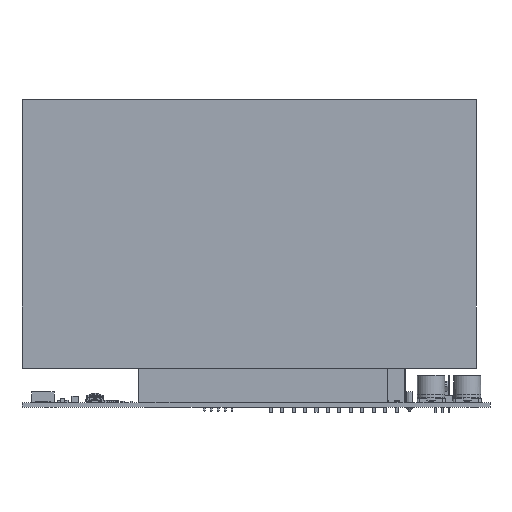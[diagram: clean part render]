
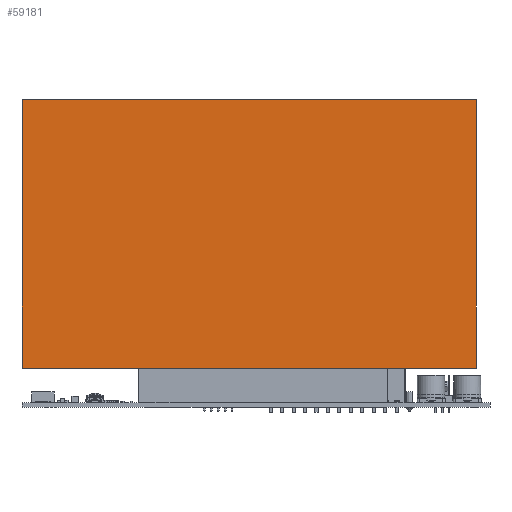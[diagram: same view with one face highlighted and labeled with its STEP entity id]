
A CAD part, left-side view. The second image highlights one B-rep face of the part: STEP entity #59181.
In plain terms, the highlighted planar face has unit normal (-1, 0, 0) as drawn and (0, -1, 0) by its records, which use the part's own axes.
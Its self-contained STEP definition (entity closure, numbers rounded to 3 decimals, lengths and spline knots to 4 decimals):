
#47949=FACE_OUTER_BOUND($,#49744,.T.);
#49744=EDGE_LOOP($,(#65613,#65614,#65615,#65616));
#54014=AXIS2_PLACEMENT_3D($,#136234,#115320,$);
#56813=PLANE($,#54014);
#59181=ADVANCED_FACE($,(#47949),#56813,.T.);
#65613=ORIENTED_EDGE($,*,*,#77781,.T.);
#65614=ORIENTED_EDGE($,*,*,#77790,.T.);
#65615=ORIENTED_EDGE($,*,*,#77785,.F.);
#65616=ORIENTED_EDGE($,*,*,#77789,.F.);
#77781=EDGE_CURVE($,#110445,#110446,#96507,.T.);
#77785=EDGE_CURVE($,#110450,#110451,#96511,.T.);
#77789=EDGE_CURVE($,#110445,#110450,#96515,.T.);
#77790=EDGE_CURVE($,#110446,#110451,#96516,.T.);
#83691=VECTOR($,#115307,6.5485);
#83695=VECTOR($,#115311,6.5485);
#83699=VECTOR($,#115315,3.876);
#83700=VECTOR($,#115316,3.876);
#96507=LINE($,#136234,#83691);
#96511=LINE($,#136239,#83695);
#96515=LINE($,#136234,#83699);
#96516=LINE($,#136235,#83700);
#110445=VERTEX_POINT($,#136234);
#110446=VERTEX_POINT($,#136235);
#110450=VERTEX_POINT($,#136239);
#110451=VERTEX_POINT($,#136240);
#115307=DIRECTION($,(-1.,0.,0.));
#115311=DIRECTION($,(-1.,0.,0.));
#115315=DIRECTION($,(0.,0.,-1.));
#115316=DIRECTION($,(0.,0.,-1.));
#115320=DIRECTION($,(0.,-1.,0.));
#136234=CARTESIAN_POINT('',(4.7595,-0.57,4.376));
#136235=CARTESIAN_POINT('',(-1.789,-0.57,4.376));
#136239=CARTESIAN_POINT('',(4.7595,-0.57,0.5));
#136240=CARTESIAN_POINT('',(-1.789,-0.57,0.5));
